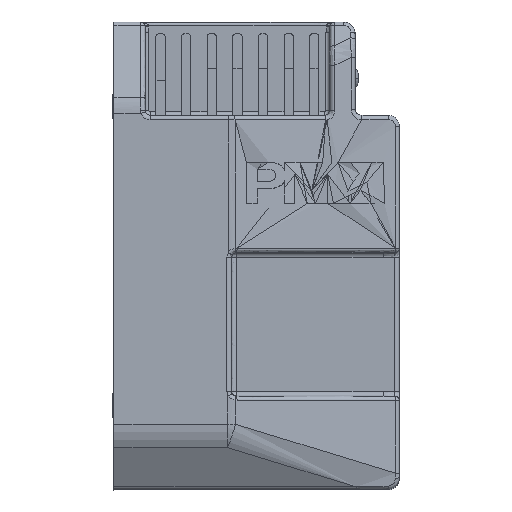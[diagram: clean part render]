
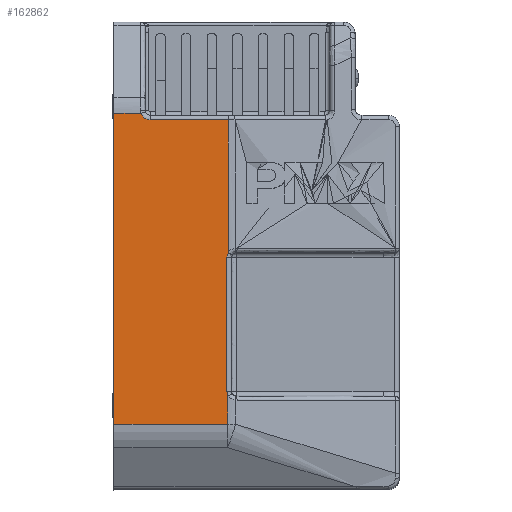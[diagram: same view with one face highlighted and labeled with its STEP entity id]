
A CAD part, top view. The second image highlights one B-rep face of the part: STEP entity #162862.
In plain terms, the highlighted free-form (B-spline) face has degree [1, 1] with [2, 2] control points.
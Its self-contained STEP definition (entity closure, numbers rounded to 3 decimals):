
#148935=DIRECTION('',(0.,-1.,0.));
#148936=VECTOR('',#148935,33.5);
#148937=CARTESIAN_POINT('',(20.,48.5,158.5));
#148938=LINE('',#148937,#148936);
#148942=DIRECTION('',(0.,0.,1.));
#148943=VECTOR('',#148942,57.064);
#148944=CARTESIAN_POINT('',(20.,48.5,
101.436));
#148945=LINE('',#148944,#148943);
#148949=CARTESIAN_POINT('',(20.,52.,99.5));
#148950=DIRECTION('',(1.,0.,0.));
#148951=DIRECTION('',(0.,-0.875,0.484));
#148952=AXIS2_PLACEMENT_3D('',#148949,#148950,#148951);
#148957=DIRECTION('',(0.,0.,-1.));
#148958=VECTOR('',#148957,57.5);
#148959=CARTESIAN_POINT('',(20.,48.,99.5));
#148960=LINE('',#148959,#148958);
#148964=CARTESIAN_POINT('',(20.,52.,42.));
#148965=DIRECTION('',(1.,0.,0.));
#148966=DIRECTION('',(0.,-1.,0.));
#148967=AXIS2_PLACEMENT_3D('',#148964,#148965,#148966);
#148972=DIRECTION('',(0.,0.,1.));
#148973=VECTOR('',#148972,12.732);
#148974=CARTESIAN_POINT('',(20.,48.25,27.876));
#148975=LINE('',#148974,#148973);
#148979=DIRECTION('',(0.,1.,0.));
#148980=VECTOR('',#148979,48.75);
#148981=CARTESIAN_POINT('',(20.,-0.5,27.876));
#148982=LINE('',#148981,#148980);
#148986=DIRECTION('',(0.,1.,
0.));
#148987=VECTOR('',#148986,11.698);
#148988=CARTESIAN_POINT('',(20.,-0.5,161.256));
#148989=LINE('',#148988,#148987);
#148993=CARTESIAN_POINT('',(20.,15.,162.5));
#148994=DIRECTION('',(1.,0.,0.));
#148995=DIRECTION('',(0.,-0.95,-0.311));
#148996=AXIS2_PLACEMENT_3D('',#148993,#148994,#148995);
#149020=CARTESIAN_POINT('',(20.,48.5,158.5));
#149031=CARTESIAN_POINT('',(20.,48.5,
101.436));
#150415=DIRECTION('',(0.,0.,1.));
#150416=VECTOR('',#150415,133.381);
#150417=CARTESIAN_POINT('',(20.,-0.5,27.876));
#150418=LINE('',#150417,#150416);
#150543=CARTESIAN_POINT('',(20.,11.198,
161.256));
#150564=CARTESIAN_POINT('',(20.,48.25,40.607));
#157892=CARTESIAN_POINT('',(20.,48.,99.5));
#157893=CARTESIAN_POINT('',(20.,48.,42.));
#157894=VERTEX_POINT('',#157892);
#157895=VERTEX_POINT('',#157893);
#157902=VERTEX_POINT('',#149031);
#157908=CARTESIAN_POINT('',(20.,-0.5,27.876));
#157910=VERTEX_POINT('',#157908);
#157911=CARTESIAN_POINT('',(20.,-0.5,161.256));
#157913=VERTEX_POINT('',#157911);
#157915=VERTEX_POINT('',#150564);
#157921=CARTESIAN_POINT('',(20.,48.25,27.876));
#157922=VERTEX_POINT('',#157921);
#158041=VERTEX_POINT('',#149020);
#158045=CARTESIAN_POINT('',(20.,15.,158.5));
#158046=VERTEX_POINT('',#158045);
#158054=VERTEX_POINT('',#150543);
#162836=CARTESIAN_POINT('',(20.,-1.48,25.208));
#162837=CARTESIAN_POINT('',(20.,-1.48,163.924));
#162838=CARTESIAN_POINT('',(20.,49.48,25.208));
#162839=CARTESIAN_POINT('',(20.,49.48,163.924));
#162840=B_SPLINE_SURFACE_WITH_KNOTS('',1,1,((#162836,#162837),(#162838,
#162839)),.UNSPECIFIED.,.F.,.F.,.F.,(2,2),(2,2),(-1.48,49.48),(
25.208,163.924),.UNSPECIFIED.);
#162842=ORIENTED_EDGE('',*,*,#162841,.F.);
#162844=ORIENTED_EDGE('',*,*,#162843,.F.);
#162846=ORIENTED_EDGE('',*,*,#162845,.T.);
#162848=ORIENTED_EDGE('',*,*,#162847,.T.);
#162850=ORIENTED_EDGE('',*,*,#162849,.T.);
#162852=ORIENTED_EDGE('',*,*,#162851,.F.);
#162854=ORIENTED_EDGE('',*,*,#162853,.F.);
#162856=ORIENTED_EDGE('',*,*,#162855,.T.);
#162858=ORIENTED_EDGE('',*,*,#162857,.T.);
#162859=ORIENTED_EDGE('',*,*,#162827,.T.);
#162860=EDGE_LOOP('',(#162842,#162844,#162846,#162848,#162850,#162852,#162854,
#162856,#162858,#162859));
#162861=FACE_OUTER_BOUND('',#162860,.F.);
#162862=ADVANCED_FACE('',(#162861),#162840,.T.);
#148953=CIRCLE('',#148952,4.);
#148968=CIRCLE('',#148967,4.);
#148997=CIRCLE('',#148996,4.);
#162827=EDGE_CURVE('',#158054,#158046,#148997,.T.);
#162841=EDGE_CURVE('',#158041,#158046,#148938,.T.);
#162843=EDGE_CURVE('',#157902,#158041,#148945,.T.);
#162845=EDGE_CURVE('',#157902,#157894,#148953,.T.);
#162847=EDGE_CURVE('',#157894,#157895,#148960,.T.);
#162849=EDGE_CURVE('',#157895,#157915,#148968,.T.);
#162851=EDGE_CURVE('',#157922,#157915,#148975,.T.);
#162853=EDGE_CURVE('',#157910,#157922,#148982,.T.);
#162855=EDGE_CURVE('',#157910,#157913,#150418,.T.);
#162857=EDGE_CURVE('',#157913,#158054,#148989,.T.);
